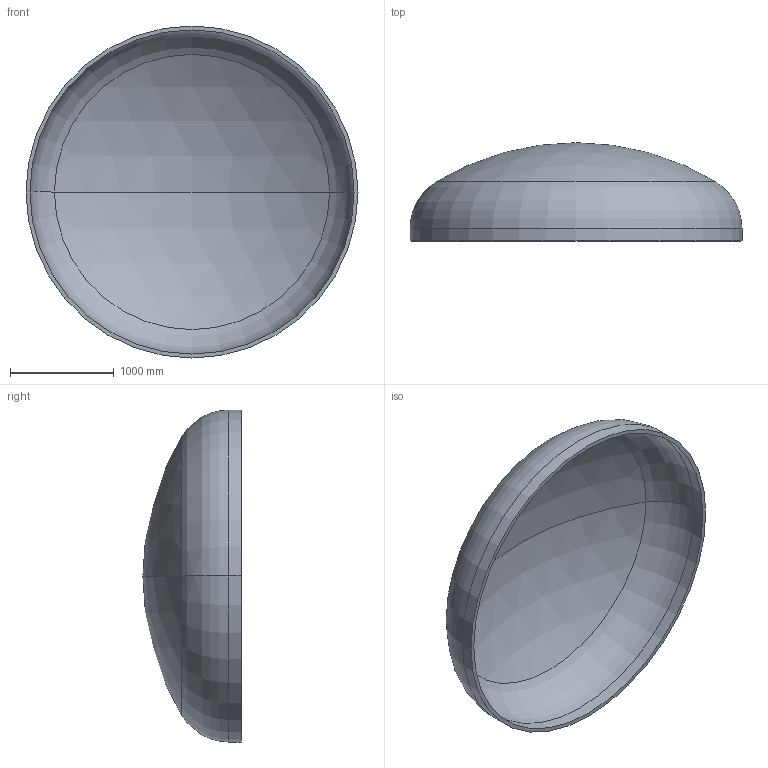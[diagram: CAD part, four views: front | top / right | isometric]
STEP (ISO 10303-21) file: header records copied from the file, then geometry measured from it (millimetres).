
FILE_DESCRIPTION (( 'STEP AP203' ), '1' );
FILE_NAME ('DIN 28013 Korbbogenform_-_Boden DIN 28013 - 3200 x 120 - I - s=38.step', '2016-07-01T18:35:10', ( '' ), ( '' ), 'SwSTEP 2.0', 'SolidWorks 2013', '' );
FILE_SCHEMA (( 'CONFIG_CONTROL_DESIGN' ));
Length unit declared in the file: millimetre
Products named in the file (1): DIN 28013 Korbbogenform_-_Boden DIN 28013 - 3200 x 120 - I - s=38
Bounding box: 3200 x 947.2 x 3200 mm (x, y, z)
Volume: 461509599.8 mm3; surface area: 24670475.7 mm2
Topology: 1 solids, 1 shells, 13 faces, 24 edges, 14 vertices
Faces by surface type: torus 4, cylinder 4, sphere 4, plane 1
Entity records: 407 total; most frequent: DIRECTION 72, CARTESIAN_POINT 52, ORIENTED_EDGE 48, AXIS2_PLACEMENT_3D 34, EDGE_CURVE 24, CIRCLE 20, VERTEX_POINT 14, EDGE_LOOP 14
